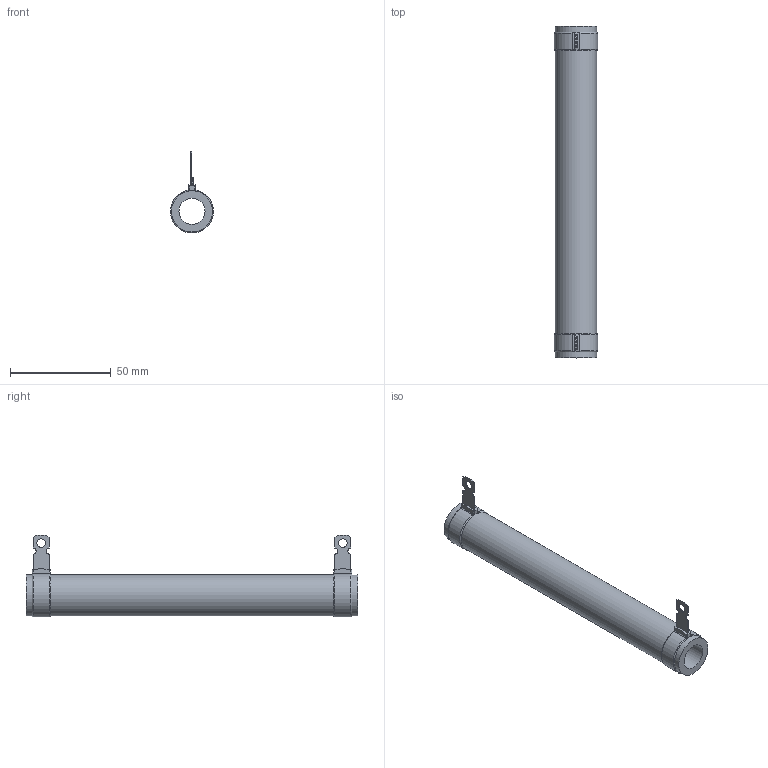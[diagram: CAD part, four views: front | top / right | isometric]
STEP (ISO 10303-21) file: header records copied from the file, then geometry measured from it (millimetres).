
FILE_DESCRIPTION(/* description */ (''),/* implementation_level */ '2;1');
FILE_NAME(/* name */ 'C:\_Vault\Dati\CATALOGO\RCA-RSA\3D\CA0100.stp',/* time_stamp */ '2014-01-22T15:02:06+01:00',/* author */ ('stefano'),/* organization */ (''),/* preprocessor_version */ 'ST-DEVELOPER v15.2',/* originating_system */ 'Autodesk Inventor 2014',/* authorisation */ '');
FILE_SCHEMA (('AUTOMOTIVE_DESIGN { 1 0 10303 214 3 1 1 }'));
Length unit declared in the file: millimetre
Products named in the file (1): CA0100
Bounding box: 21.5 x 165 x 40.75 mm (x, y, z)
Volume: 33400.3 mm3; surface area: 18594 mm2
Topology: 1 solids, 1 shells, 77 faces, 184 edges, 114 vertices
Faces by surface type: plane 35, cylinder 30, torus 12
Full cylindrical faces by diameter (mm): 4.2 x2, 13 x1, 20.5 x3
Entity records: 2371 total; most frequent: CARTESIAN_POINT 438, DIRECTION 406, ORIENTED_EDGE 352, EDGE_CURVE 176, AXIS2_PLACEMENT_3D 160, VERTEX_POINT 112, EDGE_LOOP 94, LINE 86
